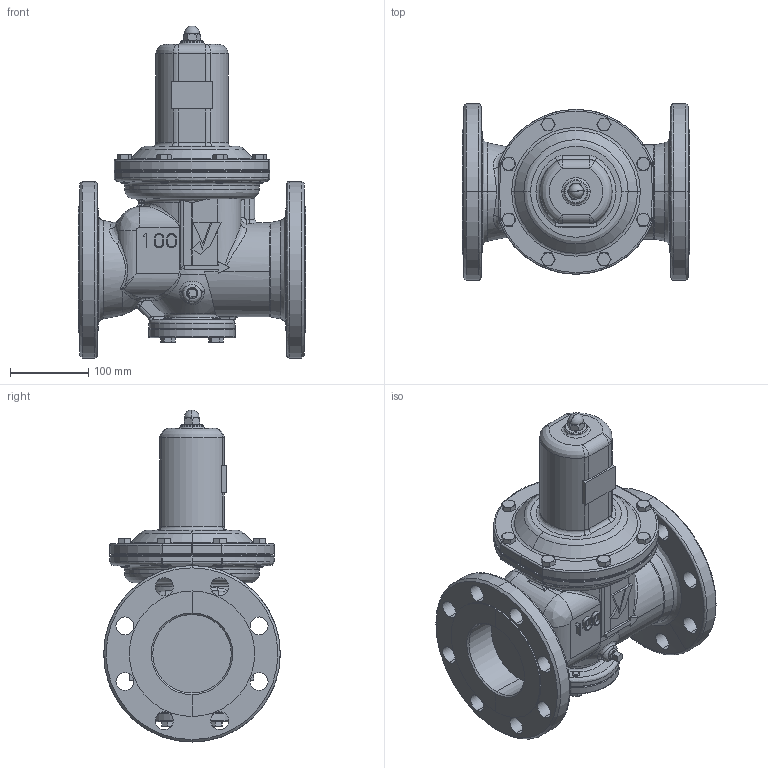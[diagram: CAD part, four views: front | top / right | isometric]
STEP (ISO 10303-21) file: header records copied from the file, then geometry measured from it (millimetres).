
FILE_DESCRIPTION( (''), '2;1');
FILE_NAME ('PC2091.11224.GD-29S-NE 100A_21415.stp','2026-03-26T17:16:53',(''),(''),'spGate 21.9.4 (****-****-****-****)','','');
FILE_SCHEMA (('AUTOMOTIVE_DESIGN'));
Length unit declared in the file: millimetre
Products named in the file (9): Assembly; カバー; ダイヤフラム; 3Ｄ　保護筒; CP_''_JIS B 1180 呼び径六角ボルト''_17166; CP_''_JIS B 1180 呼び径六角ボ''_(1)_17166; CP_''_JIS B 1183 六角袋ナット 3形 M''_705; プラグ; 弁箱100A
Assembly tree (19 placements, depth 2):
  Assembly
    カバー
    ダイヤフラム
    3Ｄ　保護筒
    CP_''_JIS B 1180 呼び径六角ボルト''_17166  x4
    CP_''_JIS B 1180 呼び径六角ボ''_(1)_17166  x8
    CP_''_JIS B 1183 六角袋ナット 3形 M''_705
    プラグ  x2
    弁箱100A
Bounding box: 290 x 225 x 423.19 mm (x, y, z)
Volume: 5528718.7 mm3; surface area: 710775.6 mm2
Topology: 19 solids, 19 shells, 906 faces, 2216 edges, 1360 vertices
Faces by surface type: bspline 361, cylinder 265, plane 260, sphere 20
Entity records: 43232 total; most frequent: CARTESIAN_POINT 16117, ORIENTED_EDGE 3330, DIRECTION 2412, COLOUR_RGB 2325, PRESENTATION_STYLE_ASSIGNMENT 2325, STYLED_ITEM 2325, EDGE_CURVE 1665, DRAUGHTING_PRE_DEFINED_CURVE_FONT 1665
